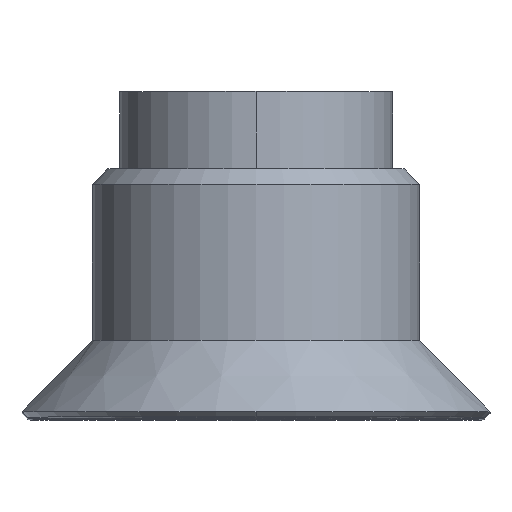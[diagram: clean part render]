
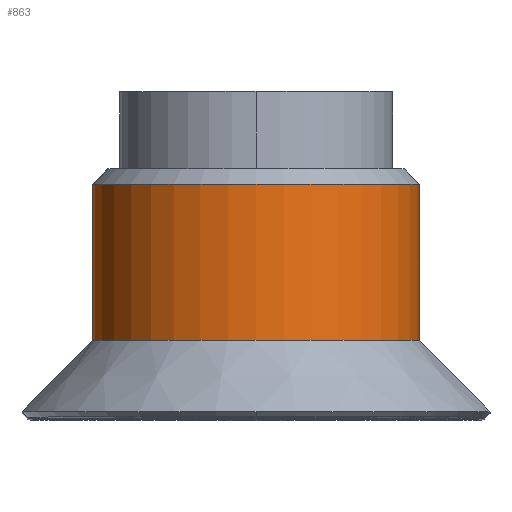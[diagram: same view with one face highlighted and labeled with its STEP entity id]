
A CAD part, top view. The second image highlights one B-rep face of the part: STEP entity #863.
In plain terms, the highlighted cylindrical face has radius 10.5 mm (diameter 21 mm), a partial arc.
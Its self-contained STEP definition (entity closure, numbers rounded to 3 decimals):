
#3 = DIRECTION ( 'NONE',  ( 0., -1., 0. ) ) ;
#20 = EDGE_CURVE ( 'NONE', #978, #140, #537, .T. ) ;
#74 = CARTESIAN_POINT ( 'NONE',  ( -10.5, 5., 30. ) ) ;
#80 = VERTEX_POINT ( 'NONE', #155 ) ;
#140 = VERTEX_POINT ( 'NONE', #74 ) ;
#150 = CARTESIAN_POINT ( 'NONE',  ( -10.5, 10., 30. ) ) ;
#155 = CARTESIAN_POINT ( 'NONE',  ( 10.5, 15., 30. ) ) ;
#210 = DIRECTION ( 'NONE',  ( 0., -1., 0. ) ) ;
#223 = VECTOR ( 'NONE', #1053, 1000. ) ;
#243 = ORIENTED_EDGE ( 'NONE', *, *, #621, .T. ) ;
#244 = DIRECTION ( 'NONE',  ( 0., -1., 0. ) ) ;
#269 = ORIENTED_EDGE ( 'NONE', *, *, #20, .F. ) ;
#278 = CYLINDRICAL_SURFACE ( 'NONE', #765, 10.5 ) ;
#282 = VERTEX_POINT ( 'NONE', #284 ) ;
#284 = CARTESIAN_POINT ( 'NONE',  ( -10.5, 15., 30. ) ) ;
#311 = CARTESIAN_POINT ( 'NONE',  ( 0., 15., 30. ) ) ;
#321 = FACE_OUTER_BOUND ( 'NONE', #886, .T. ) ;
#488 = AXIS2_PLACEMENT_3D ( 'NONE', #594, #210, #707 ) ;
#537 = CIRCLE ( 'NONE', #488, 10.5 ) ;
#546 = CIRCLE ( 'NONE', #933, 10.5 ) ;
#552 = DIRECTION ( 'NONE',  ( -1., 0., 0. ) ) ;
#569 = LINE ( 'NONE', #150, #589 ) ;
#589 = VECTOR ( 'NONE', #3, 1000. ) ;
#594 = CARTESIAN_POINT ( 'NONE',  ( 0., 5., 30. ) ) ;
#621 = EDGE_CURVE ( 'NONE', #282, #140, #569, .T. ) ;
#707 = DIRECTION ( 'NONE',  ( 0., 0., 1. ) ) ;
#708 = DIRECTION ( 'NONE',  ( 0., 1., 0. ) ) ;
#765 = AXIS2_PLACEMENT_3D ( 'NONE', #872, #708, #552 ) ;
#863 = ADVANCED_FACE ( 'NONE', ( #321 ), #278, .T. ) ;
#872 = CARTESIAN_POINT ( 'NONE',  ( 0., 5., 30. ) ) ;
#886 = EDGE_LOOP ( 'NONE', ( #269, #1384, #1346, #243 ) ) ;
#902 = CARTESIAN_POINT ( 'NONE',  ( 10.5, 5., 30. ) ) ;
#933 = AXIS2_PLACEMENT_3D ( 'NONE', #311, #244, #1101 ) ;
#978 = VERTEX_POINT ( 'NONE', #902 ) ;
#1053 = DIRECTION ( 'NONE',  ( 0., -1., 0. ) ) ;
#1075 = LINE ( 'NONE', #1393, #223 ) ;
#1101 = DIRECTION ( 'NONE',  ( 0., 0., -1. ) ) ;
#1241 = EDGE_CURVE ( 'NONE', #80, #282, #546, .T. ) ;
#1287 = EDGE_CURVE ( 'NONE', #80, #978, #1075, .T. ) ;
#1346 = ORIENTED_EDGE ( 'NONE', *, *, #1241, .T. ) ;
#1384 = ORIENTED_EDGE ( 'NONE', *, *, #1287, .F. ) ;
#1393 = CARTESIAN_POINT ( 'NONE',  ( 10.5, 10., 30. ) ) ;
